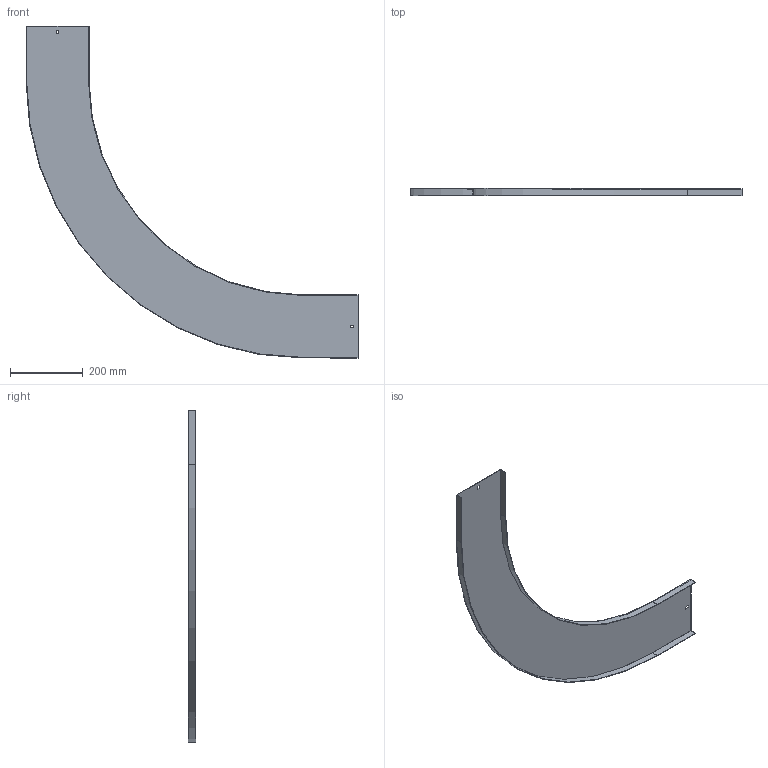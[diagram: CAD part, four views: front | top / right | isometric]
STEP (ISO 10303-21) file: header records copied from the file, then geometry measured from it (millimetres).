
FILE_DESCRIPTION (( 'STEP AP214' ), '1' );
FILE_NAME ('10N6P150.step', '2025-02-21T13:37:01', ( '' ), ( '' ), 'SwSTEP 2.0', 'SolidWorks 2023', '' );
FILE_SCHEMA (( 'AUTOMOTIVE_DESIGN' ));
Length unit declared in the file: millimetre
Products named in the file (1): 10N6P150
Bounding box: 911.5 x 20 x 911.5 mm (x, y, z)
Volume: 428315.1 mm3; surface area: 575890.6 mm2
Topology: 1 solids, 1 shells, 26 faces, 72 edges, 48 vertices
Faces by surface type: plane 22, cylinder 4
Entity records: 855 total; most frequent: CARTESIAN_POINT 147, ORIENTED_EDGE 144, DIRECTION 134, EDGE_CURVE 72, VECTOR 64, LINE 64, VERTEX_POINT 48, AXIS2_PLACEMENT_3D 35
